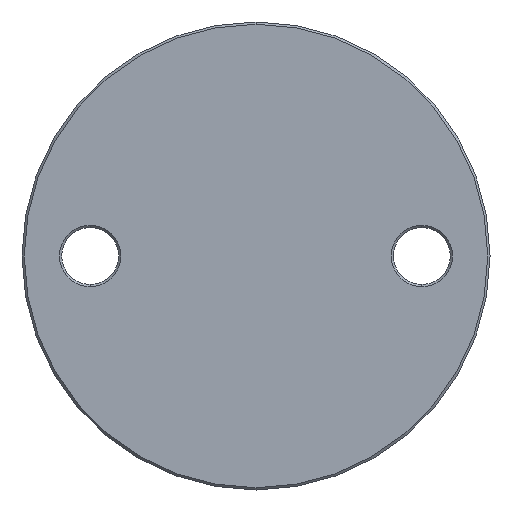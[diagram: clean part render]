
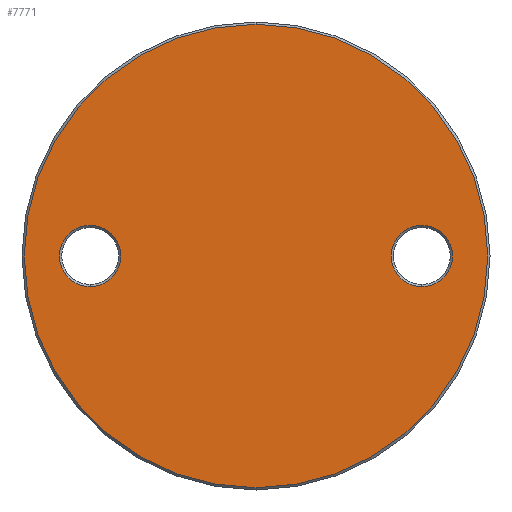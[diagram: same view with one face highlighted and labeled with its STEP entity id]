
A CAD part, front view. The second image highlights one B-rep face of the part: STEP entity #7771.
In plain terms, the highlighted planar face has unit normal (0, -1, 0).
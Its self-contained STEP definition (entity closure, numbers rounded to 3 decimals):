
#203 = FACE_BOUND ( 'NONE', #7760, .T. ) ;
#298 = PLANE ( 'NONE',  #9650 ) ;
#421 = ORIENTED_EDGE ( 'NONE', *, *, #7483, .T. ) ;
#838 = AXIS2_PLACEMENT_3D ( 'NONE', #4695, #4543, #6242 ) ;
#1111 = CIRCLE ( 'NONE', #10264, 6.75 ) ;
#1114 = VERTEX_POINT ( 'NONE', #8008 ) ;
#1146 = AXIS2_PLACEMENT_3D ( 'NONE', #9557, #8758, #3724 ) ;
#1291 = DIRECTION ( 'NONE',  ( 0., 0., -1. ) ) ;
#1475 = EDGE_CURVE ( 'NONE', #2371, #1114, #1754, .T. ) ;
#1574 = CARTESIAN_POINT ( 'NONE',  ( 36.5, -3., 0. ) ) ;
#1697 = CARTESIAN_POINT ( 'NONE',  ( 36.5, -3., 0. ) ) ;
#1741 = CARTESIAN_POINT ( 'NONE',  ( 36.5, -3., 6.75 ) ) ;
#1754 = CIRCLE ( 'NONE', #1146, 6.75 ) ;
#1935 = ORIENTED_EDGE ( 'NONE', *, *, #4738, .T. ) ;
#2371 = VERTEX_POINT ( 'NONE', #2902 ) ;
#2400 = EDGE_LOOP ( 'NONE', ( #10606, #421 ) ) ;
#2496 = DIRECTION ( 'NONE',  ( 0., 0., -1. ) ) ;
#2755 = CIRCLE ( 'NONE', #6672, 51. ) ;
#2817 = CIRCLE ( 'NONE', #10626, 6.75 ) ;
#2902 = CARTESIAN_POINT ( 'NONE',  ( -36.5, -3., 6.75 ) ) ;
#3077 = VERTEX_POINT ( 'NONE', #9911 ) ;
#3262 = DIRECTION ( 'NONE',  ( 0., 0., -1. ) ) ;
#3724 = DIRECTION ( 'NONE',  ( 0., 0., -1. ) ) ;
#3876 = VERTEX_POINT ( 'NONE', #9435 ) ;
#4057 = ORIENTED_EDGE ( 'NONE', *, *, #1475, .T. ) ;
#4415 = FACE_BOUND ( 'NONE', #2400, .T. ) ;
#4432 = VERTEX_POINT ( 'NONE', #1741 ) ;
#4543 = DIRECTION ( 'NONE',  ( 0., 1., 0. ) ) ;
#4609 = CARTESIAN_POINT ( 'NONE',  ( 0., -3., 0. ) ) ;
#4695 = CARTESIAN_POINT ( 'NONE',  ( -36.5, -3., 0. ) ) ;
#4738 = EDGE_CURVE ( 'NONE', #1114, #2371, #9807, .T. ) ;
#5132 = ORIENTED_EDGE ( 'NONE', *, *, #9902, .T. ) ;
#5450 = DIRECTION ( 'NONE',  ( 0., 0., -1. ) ) ;
#5467 = AXIS2_PLACEMENT_3D ( 'NONE', #8266, #8193, #6554 ) ;
#5502 = DIRECTION ( 'NONE',  ( 0., -1., 0. ) ) ;
#5903 = DIRECTION ( 'NONE',  ( 0., 1., 0. ) ) ;
#6182 = DIRECTION ( 'NONE',  ( 0., -1., 0. ) ) ;
#6242 = DIRECTION ( 'NONE',  ( 0., 0., -1. ) ) ;
#6554 = DIRECTION ( 'NONE',  ( 0., 0., -1. ) ) ;
#6672 = AXIS2_PLACEMENT_3D ( 'NONE', #4609, #5502, #1291 ) ;
#7390 = CIRCLE ( 'NONE', #5467, 51. ) ;
#7451 = EDGE_CURVE ( 'NONE', #7921, #4432, #1111, .T. ) ;
#7483 = EDGE_CURVE ( 'NONE', #4432, #7921, #2817, .T. ) ;
#7566 = EDGE_LOOP ( 'NONE', ( #9013, #5132 ) ) ;
#7760 = EDGE_LOOP ( 'NONE', ( #1935, #4057 ) ) ;
#7771 = ADVANCED_FACE ( 'NONE', ( #4415, #203, #10820 ), #298, .T. ) ;
#7921 = VERTEX_POINT ( 'NONE', #9908 ) ;
#8008 = CARTESIAN_POINT ( 'NONE',  ( -36.5, -3., -6.75 ) ) ;
#8193 = DIRECTION ( 'NONE',  ( 0., -1., 0. ) ) ;
#8266 = CARTESIAN_POINT ( 'NONE',  ( 0., -3., 0. ) ) ;
#8352 = DIRECTION ( 'NONE',  ( 0., 1., 0. ) ) ;
#8758 = DIRECTION ( 'NONE',  ( 0., 1., 0. ) ) ;
#9013 = ORIENTED_EDGE ( 'NONE', *, *, #10656, .T. ) ;
#9435 = CARTESIAN_POINT ( 'NONE',  ( 0., -3., 51. ) ) ;
#9504 = CARTESIAN_POINT ( 'NONE',  ( 0., -3., 51.5 ) ) ;
#9557 = CARTESIAN_POINT ( 'NONE',  ( -36.5, -3., 0. ) ) ;
#9650 = AXIS2_PLACEMENT_3D ( 'NONE', #9504, #6182, #5450 ) ;
#9807 = CIRCLE ( 'NONE', #838, 6.75 ) ;
#9902 = EDGE_CURVE ( 'NONE', #3077, #3876, #2755, .T. ) ;
#9908 = CARTESIAN_POINT ( 'NONE',  ( 36.5, -3., -6.75 ) ) ;
#9911 = CARTESIAN_POINT ( 'NONE',  ( 0., -3., -51. ) ) ;
#10264 = AXIS2_PLACEMENT_3D ( 'NONE', #1574, #8352, #2496 ) ;
#10606 = ORIENTED_EDGE ( 'NONE', *, *, #7451, .T. ) ;
#10626 = AXIS2_PLACEMENT_3D ( 'NONE', #1697, #5903, #3262 ) ;
#10656 = EDGE_CURVE ( 'NONE', #3876, #3077, #7390, .T. ) ;
#10820 = FACE_OUTER_BOUND ( 'NONE', #7566, .T. ) ;
